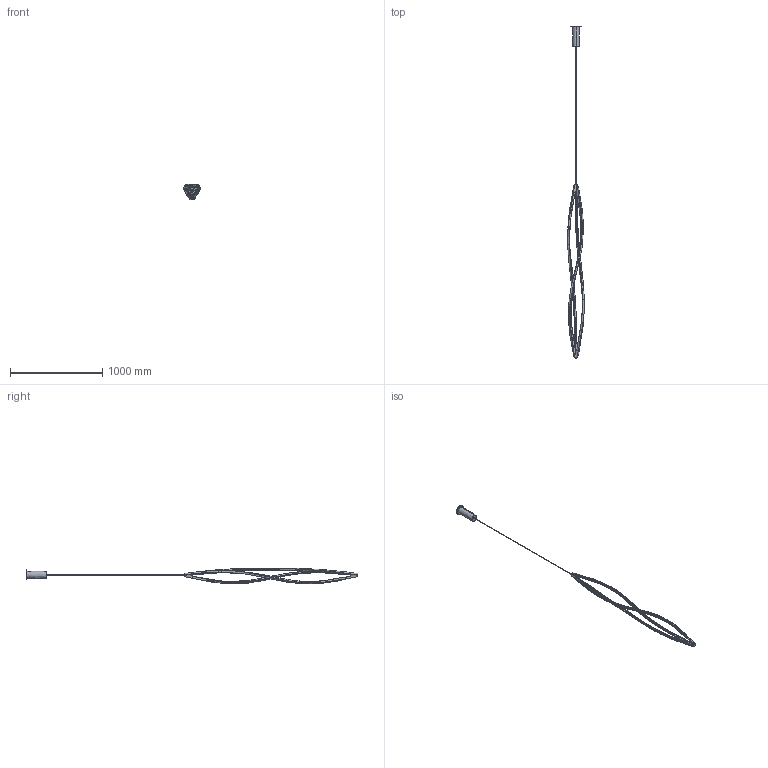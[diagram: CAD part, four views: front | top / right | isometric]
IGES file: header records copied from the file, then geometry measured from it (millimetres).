
Start section: SolidWorks IGES file using analytic representation for surfaces
Global section: file name: C:\Users\dtentori\Desktop\3d sito usa\ITW Pendant V cover plate.IGS; native system: SolidWorks 2016; preprocessor: SolidWorks 2016; author: dtentori; date: 170728.114223; units: millimetre
Bounding box: 180.75 x 3590.73 x 168.81 mm (x, y, z)
Surface area: 1130163.7 mm2 (no closed solid volume)
Topology: 0 solids, 0 shells, 1230 faces, 13138 edges, 13124 vertices
Faces by surface type: bspline 936, revolution 294
